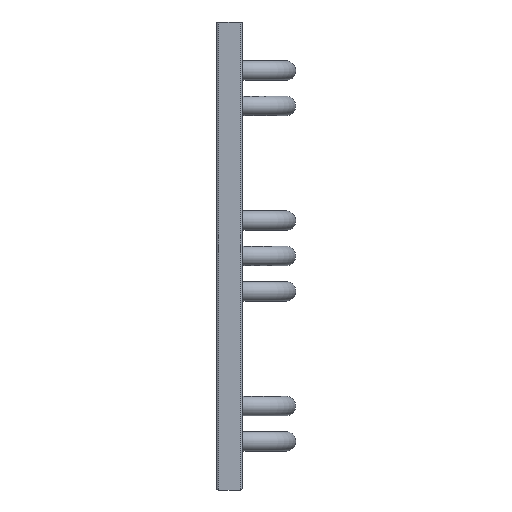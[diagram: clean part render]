
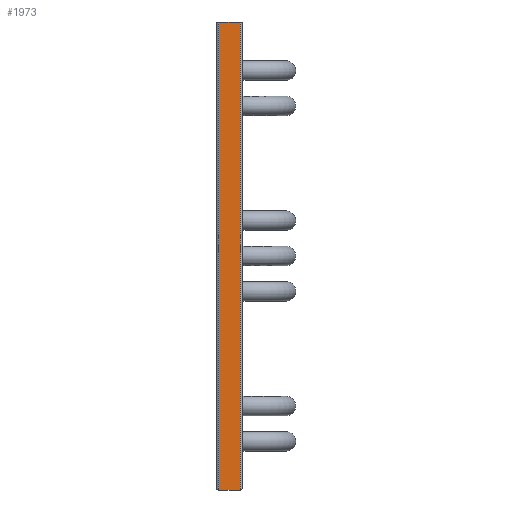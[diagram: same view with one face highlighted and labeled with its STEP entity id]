
A CAD part, left-side view. The second image highlights one B-rep face of the part: STEP entity #1973.
In plain terms, the highlighted planar face has unit normal (-1, 0, 0).
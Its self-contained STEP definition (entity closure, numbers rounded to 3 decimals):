
#215=CARTESIAN_POINT('',(-300.,12.,0.0));
#216=VERTEX_POINT('',#215);
#231=CARTESIAN_POINT('',(-300.,-12.,0.0));
#232=VERTEX_POINT('',#231);
#239=CARTESIAN_POINT('',(-300.,-12.,0.0));
#240=DIRECTION('',(0.0,1.0,0.0));
#241=VECTOR('',#240,24.);
#242=LINE('',#239,#241);
#243=EDGE_CURVE('',#232,#216,#242,.T.);
#1913=CARTESIAN_POINT('',(-300.,12.,530.0));
#1914=VERTEX_POINT('',#1913);
#1938=CARTESIAN_POINT('',(-300.,12.,0.0));
#1939=DIRECTION('',(0.0,0.0,1.0));
#1940=VECTOR('',#1939,530.0);
#1941=LINE('',#1938,#1940);
#1942=EDGE_CURVE('',#216,#1914,#1941,.T.);
#1950=CARTESIAN_POINT('',(-300.,-15.,0.0));
#1951=DIRECTION('',(-1.0,0.0,0.0));
#1952=DIRECTION('',(0.0,0.0,1.0));
#1953=AXIS2_PLACEMENT_3D('',#1950,#1951,#1952);
#1954=PLANE('',#1953);
#1955=ORIENTED_EDGE('',*,*,#1942,.F.);
#1956=ORIENTED_EDGE('',*,*,#243,.F.);
#1957=CARTESIAN_POINT('',(-300.,-12.,530.0));
#1958=VERTEX_POINT('',#1957);
#1959=CARTESIAN_POINT('',(-300.,-12.,530.0));
#1960=DIRECTION('',(0.0,0.0,-1.0));
#1961=VECTOR('',#1960,530.0);
#1962=LINE('',#1959,#1961);
#1963=EDGE_CURVE('',#1958,#232,#1962,.T.);
#1964=ORIENTED_EDGE('',*,*,#1963,.F.);
#1965=CARTESIAN_POINT('',(-300.,-12.,530.0));
#1966=DIRECTION('',(0.0,1.0,0.0));
#1967=VECTOR('',#1966,24.);
#1968=LINE('',#1965,#1967);
#1969=EDGE_CURVE('',#1958,#1914,#1968,.T.);
#1970=ORIENTED_EDGE('',*,*,#1969,.T.);
#1971=EDGE_LOOP('',(#1955,#1956,#1964,#1970));
#1972=FACE_OUTER_BOUND('',#1971,.T.);
#1973=ADVANCED_FACE('',(#1972),#1954,.T.);
